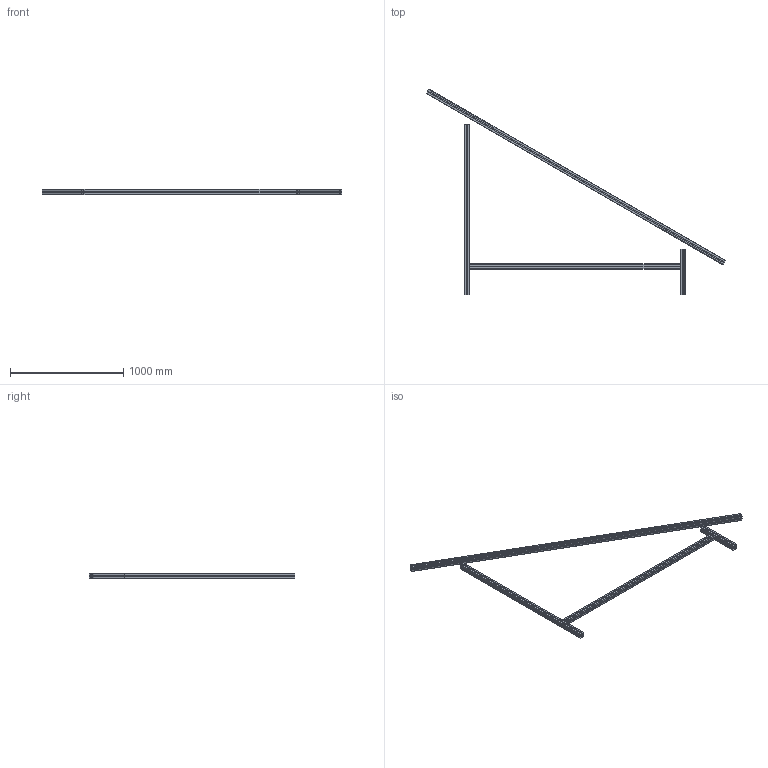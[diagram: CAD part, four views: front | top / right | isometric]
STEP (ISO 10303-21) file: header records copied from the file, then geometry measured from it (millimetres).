
FILE_DESCRIPTION (( 'STEP AP203' ), '1' );
FILE_NAME ('084.106.601.STEP', '2013-01-24T08:24:48', ( 'Alusic' ), ( 'Alusic' ), 'SwSTEP 2.0', 'SolidWorks 2011', '' );
FILE_SCHEMA (( 'CONFIG_CONTROL_DESIGN' ));
Length unit declared in the file: millimetre
Products named in the file (1): 084.106.601
Bounding box: 2637.9 x 1814.07 x 45 mm (x, y, z)
Volume: 2893928.4 mm3; surface area: 4159612.6 mm2
Topology: 4 solids, 4 shells, 620 faces, 1818 edges, 1204 vertices
Faces by surface type: plane 334, cylinder 286
Entity records: 20863 total; most frequent: CARTESIAN_POINT 3929, ORIENTED_EDGE 3636, DIRECTION 3492, EDGE_CURVE 1818, LINE 1254, VECTOR 1254, VERTEX_POINT 1204, AXIS2_PLACEMENT_3D 1119
